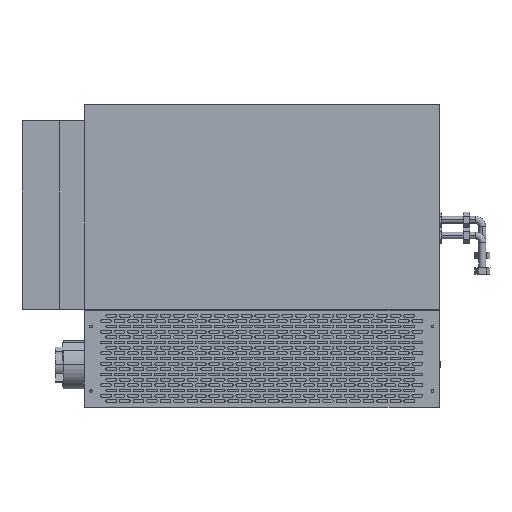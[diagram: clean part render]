
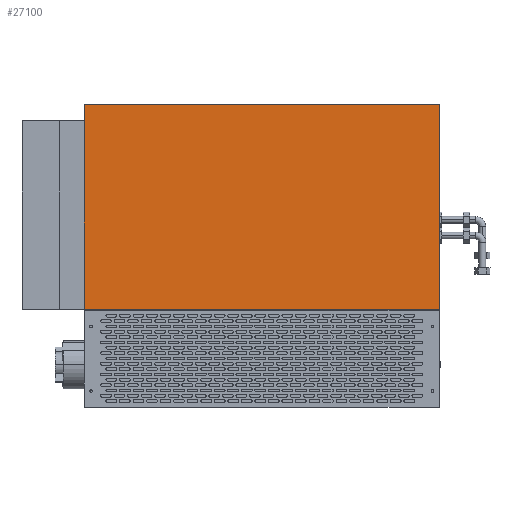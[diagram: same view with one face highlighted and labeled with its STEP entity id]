
A CAD part, top view. The second image highlights one B-rep face of the part: STEP entity #27100.
In plain terms, the highlighted planar face has unit normal (0, 0, 1).
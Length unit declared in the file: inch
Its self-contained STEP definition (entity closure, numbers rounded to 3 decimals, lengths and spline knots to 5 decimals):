
#1025 = VERTEX_POINT ( 'NONE', #101453 ) ;
#3086 = VERTEX_POINT ( 'NONE', #17335 ) ;
#8073 = DIRECTION ( 'NONE',  ( 0., -1., 0. ) ) ;
#13102 = EDGE_CURVE ( 'NONE', #61698, #1025, #32779, .T. ) ;
#14251 = FACE_OUTER_BOUND ( 'NONE', #44527, .T. ) ;
#17335 = CARTESIAN_POINT ( 'NONE',  ( -12.96875, 22.125, 2.5625 ) ) ;
#18281 = DIRECTION ( 'NONE',  ( -1., 0., 0. ) ) ;
#23364 = CARTESIAN_POINT ( 'NONE',  ( -12.96875, 22.125, 2.5625 ) ) ;
#25683 = ORIENTED_EDGE ( 'NONE', *, *, #26881, .F. ) ;
#26384 = CARTESIAN_POINT ( 'NONE',  ( 12.96875, 22.125, 2.5625 ) ) ;
#26881 = EDGE_CURVE ( 'NONE', #3086, #61698, #29287, .T. ) ;
#27100 = ADVANCED_FACE ( 'NONE', ( #14251 ), #105165, .F. ) ;
#29287 = LINE ( 'NONE', #35739, #58730 ) ;
#32779 = LINE ( 'NONE', #68120, #40176 ) ;
#35739 = CARTESIAN_POINT ( 'NONE',  ( -12.96875, 22.125, 2.5625 ) ) ;
#40176 = VECTOR ( 'NONE', #8073, 39.37008 ) ;
#42471 = CARTESIAN_POINT ( 'NONE',  ( -12.96875, 7.164, 2.5625 ) ) ;
#44527 = EDGE_LOOP ( 'NONE', ( #59625, #55019, #95774, #25683 ) ) ;
#53435 = VECTOR ( 'NONE', #18281, 39.37008 ) ;
#54580 = DIRECTION ( 'NONE',  ( 1., 0., 0. ) ) ;
#55019 = ORIENTED_EDGE ( 'NONE', *, *, #59387, .F. ) ;
#55642 = EDGE_CURVE ( 'NONE', #3086, #102704, #105504, .T. ) ;
#56708 = DIRECTION ( 'NONE',  ( 0., 0., -1. ) ) ;
#57077 = CARTESIAN_POINT ( 'NONE',  ( -12.96875, 22.125, 2.5625 ) ) ;
#58730 = VECTOR ( 'NONE', #54580, 39.37008 ) ;
#59181 = LINE ( 'NONE', #42471, #53435 ) ;
#59387 = EDGE_CURVE ( 'NONE', #1025, #102704, #59181, .T. ) ;
#59625 = ORIENTED_EDGE ( 'NONE', *, *, #55642, .T. ) ;
#61698 = VERTEX_POINT ( 'NONE', #26384 ) ;
#63292 = VECTOR ( 'NONE', #99534, 39.37008 ) ;
#67263 = CARTESIAN_POINT ( 'NONE',  ( -12.96875, 7.164, 2.5625 ) ) ;
#68120 = CARTESIAN_POINT ( 'NONE',  ( 12.96875, 22.125, 2.5625 ) ) ;
#85516 = AXIS2_PLACEMENT_3D ( 'NONE', #23364, #56708, #88988 ) ;
#88988 = DIRECTION ( 'NONE',  ( -1., 0., 0. ) ) ;
#95774 = ORIENTED_EDGE ( 'NONE', *, *, #13102, .F. ) ;
#99534 = DIRECTION ( 'NONE',  ( 0., -1., 0. ) ) ;
#101453 = CARTESIAN_POINT ( 'NONE',  ( 12.96875, 7.164, 2.5625 ) ) ;
#102704 = VERTEX_POINT ( 'NONE', #67263 ) ;
#105165 = PLANE ( 'NONE',  #85516 ) ;
#105504 = LINE ( 'NONE', #57077, #63292 ) ;
